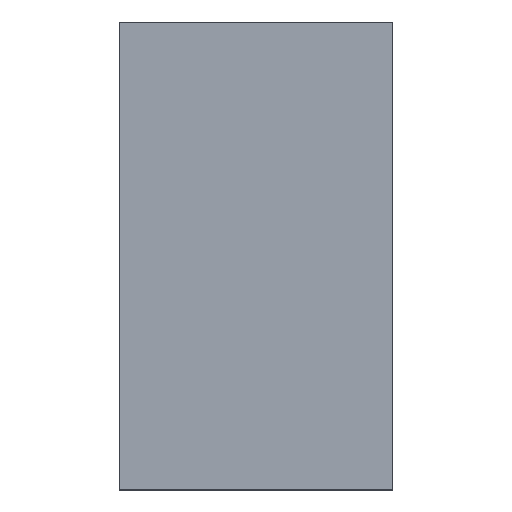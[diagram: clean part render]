
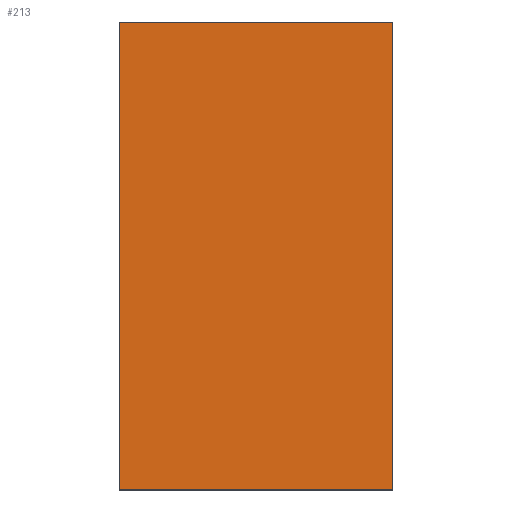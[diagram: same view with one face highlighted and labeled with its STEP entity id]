
A CAD part, top view. The second image highlights one B-rep face of the part: STEP entity #213.
In plain terms, the highlighted planar face has unit normal (0, 0, 1).
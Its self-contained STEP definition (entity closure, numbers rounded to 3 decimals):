
#24 = VERTEX_POINT('',#25);
#25 = CARTESIAN_POINT('',(40.7,-29.3,3.4));
#32 = PLANE('',#33);
#33 = AXIS2_PLACEMENT_3D('',#34,#35,#36);
#34 = CARTESIAN_POINT('',(40.7,-29.3,-3.4));
#35 = DIRECTION('',(1.,0.,0.));
#36 = DIRECTION('',(0.,0.,1.));
#44 = PLANE('',#45);
#45 = AXIS2_PLACEMENT_3D('',#46,#47,#48);
#46 = CARTESIAN_POINT('',(40.7,-29.3,-3.4));
#47 = DIRECTION('',(0.,1.,0.));
#48 = DIRECTION('',(0.,0.,1.));
#85 = VERTEX_POINT('',#86);
#86 = CARTESIAN_POINT('',(40.7,9.3,3.4));
#100 = PLANE('',#101);
#101 = AXIS2_PLACEMENT_3D('',#102,#103,#104);
#102 = CARTESIAN_POINT('',(40.7,9.3,-3.4));
#103 = DIRECTION('',(0.,1.,0.));
#104 = DIRECTION('',(0.,0.,1.));
#112 = EDGE_CURVE('',#24,#85,#113,.T.);
#113 = SURFACE_CURVE('',#114,(#118,#125),.PCURVE_S1.);
#114 = LINE('',#115,#116);
#115 = CARTESIAN_POINT('',(40.7,-29.3,3.4));
#116 = VECTOR('',#117,1.);
#117 = DIRECTION('',(0.,1.,0.));
#118 = PCURVE('',#32,#119);
#119 = DEFINITIONAL_REPRESENTATION('',(#120),#124);
#120 = LINE('',#121,#122);
#121 = CARTESIAN_POINT('',(6.8,0.));
#122 = VECTOR('',#123,1.);
#123 = DIRECTION('',(0.,-1.));
#124 = ( GEOMETRIC_REPRESENTATION_CONTEXT(2) 
PARAMETRIC_REPRESENTATION_CONTEXT() REPRESENTATION_CONTEXT('2D SPACE',''
  ) );
#125 = PCURVE('',#126,#131);
#126 = PLANE('',#127);
#127 = AXIS2_PLACEMENT_3D('',#128,#129,#130);
#128 = CARTESIAN_POINT('',(40.7,-29.3,3.4));
#129 = DIRECTION('',(0.,0.,1.));
#130 = DIRECTION('',(1.,0.,0.));
#131 = DEFINITIONAL_REPRESENTATION('',(#132),#136);
#132 = LINE('',#133,#134);
#133 = CARTESIAN_POINT('',(0.,0.));
#134 = VECTOR('',#135,1.);
#135 = DIRECTION('',(0.,1.));
#136 = ( GEOMETRIC_REPRESENTATION_CONTEXT(2) 
PARAMETRIC_REPRESENTATION_CONTEXT() REPRESENTATION_CONTEXT('2D SPACE',''
  ) );
#165 = EDGE_CURVE('',#24,#166,#168,.T.);
#166 = VERTEX_POINT('',#167);
#167 = CARTESIAN_POINT('',(63.3,-29.3,3.4));
#168 = SURFACE_CURVE('',#169,(#173,#180),.PCURVE_S1.);
#169 = LINE('',#170,#171);
#170 = CARTESIAN_POINT('',(40.7,-29.3,3.4));
#171 = VECTOR('',#172,1.);
#172 = DIRECTION('',(1.,0.,0.));
#173 = PCURVE('',#44,#174);
#174 = DEFINITIONAL_REPRESENTATION('',(#175),#179);
#175 = LINE('',#176,#177);
#176 = CARTESIAN_POINT('',(6.8,0.));
#177 = VECTOR('',#178,1.);
#178 = DIRECTION('',(0.,1.));
#179 = ( GEOMETRIC_REPRESENTATION_CONTEXT(2) 
PARAMETRIC_REPRESENTATION_CONTEXT() REPRESENTATION_CONTEXT('2D SPACE',''
  ) );
#180 = PCURVE('',#126,#181);
#181 = DEFINITIONAL_REPRESENTATION('',(#182),#186);
#182 = LINE('',#183,#184);
#183 = CARTESIAN_POINT('',(0.,0.));
#184 = VECTOR('',#185,1.);
#185 = DIRECTION('',(1.,0.));
#186 = ( GEOMETRIC_REPRESENTATION_CONTEXT(2) 
PARAMETRIC_REPRESENTATION_CONTEXT() REPRESENTATION_CONTEXT('2D SPACE',''
  ) );
#202 = PLANE('',#203);
#203 = AXIS2_PLACEMENT_3D('',#204,#205,#206);
#204 = CARTESIAN_POINT('',(63.3,-29.3,-3.4));
#205 = DIRECTION('',(1.,0.,0.));
#206 = DIRECTION('',(0.,0.,1.));
#213 = ADVANCED_FACE('',(#214),#126,.T.);
#214 = FACE_BOUND('',#215,.T.);
#215 = EDGE_LOOP('',(#216,#217,#218,#241));
#216 = ORIENTED_EDGE('',*,*,#112,.F.);
#217 = ORIENTED_EDGE('',*,*,#165,.T.);
#218 = ORIENTED_EDGE('',*,*,#219,.T.);
#219 = EDGE_CURVE('',#166,#220,#222,.T.);
#220 = VERTEX_POINT('',#221);
#221 = CARTESIAN_POINT('',(63.3,9.3,3.4));
#222 = SURFACE_CURVE('',#223,(#227,#234),.PCURVE_S1.);
#223 = LINE('',#224,#225);
#224 = CARTESIAN_POINT('',(63.3,-29.3,3.4));
#225 = VECTOR('',#226,1.);
#226 = DIRECTION('',(0.,1.,0.));
#227 = PCURVE('',#126,#228);
#228 = DEFINITIONAL_REPRESENTATION('',(#229),#233);
#229 = LINE('',#230,#231);
#230 = CARTESIAN_POINT('',(22.6,0.));
#231 = VECTOR('',#232,1.);
#232 = DIRECTION('',(0.,1.));
#233 = ( GEOMETRIC_REPRESENTATION_CONTEXT(2) 
PARAMETRIC_REPRESENTATION_CONTEXT() REPRESENTATION_CONTEXT('2D SPACE',''
  ) );
#234 = PCURVE('',#202,#235);
#235 = DEFINITIONAL_REPRESENTATION('',(#236),#240);
#236 = LINE('',#237,#238);
#237 = CARTESIAN_POINT('',(6.8,0.));
#238 = VECTOR('',#239,1.);
#239 = DIRECTION('',(0.,-1.));
#240 = ( GEOMETRIC_REPRESENTATION_CONTEXT(2) 
PARAMETRIC_REPRESENTATION_CONTEXT() REPRESENTATION_CONTEXT('2D SPACE',''
  ) );
#241 = ORIENTED_EDGE('',*,*,#242,.F.);
#242 = EDGE_CURVE('',#85,#220,#243,.T.);
#243 = SURFACE_CURVE('',#244,(#248,#255),.PCURVE_S1.);
#244 = LINE('',#245,#246);
#245 = CARTESIAN_POINT('',(40.7,9.3,3.4));
#246 = VECTOR('',#247,1.);
#247 = DIRECTION('',(1.,0.,0.));
#248 = PCURVE('',#126,#249);
#249 = DEFINITIONAL_REPRESENTATION('',(#250),#254);
#250 = LINE('',#251,#252);
#251 = CARTESIAN_POINT('',(0.,38.6));
#252 = VECTOR('',#253,1.);
#253 = DIRECTION('',(1.,0.));
#254 = ( GEOMETRIC_REPRESENTATION_CONTEXT(2) 
PARAMETRIC_REPRESENTATION_CONTEXT() REPRESENTATION_CONTEXT('2D SPACE',''
  ) );
#255 = PCURVE('',#100,#256);
#256 = DEFINITIONAL_REPRESENTATION('',(#257),#261);
#257 = LINE('',#258,#259);
#258 = CARTESIAN_POINT('',(6.8,0.));
#259 = VECTOR('',#260,1.);
#260 = DIRECTION('',(0.,1.));
#261 = ( GEOMETRIC_REPRESENTATION_CONTEXT(2) 
PARAMETRIC_REPRESENTATION_CONTEXT() REPRESENTATION_CONTEXT('2D SPACE',''
  ) );
